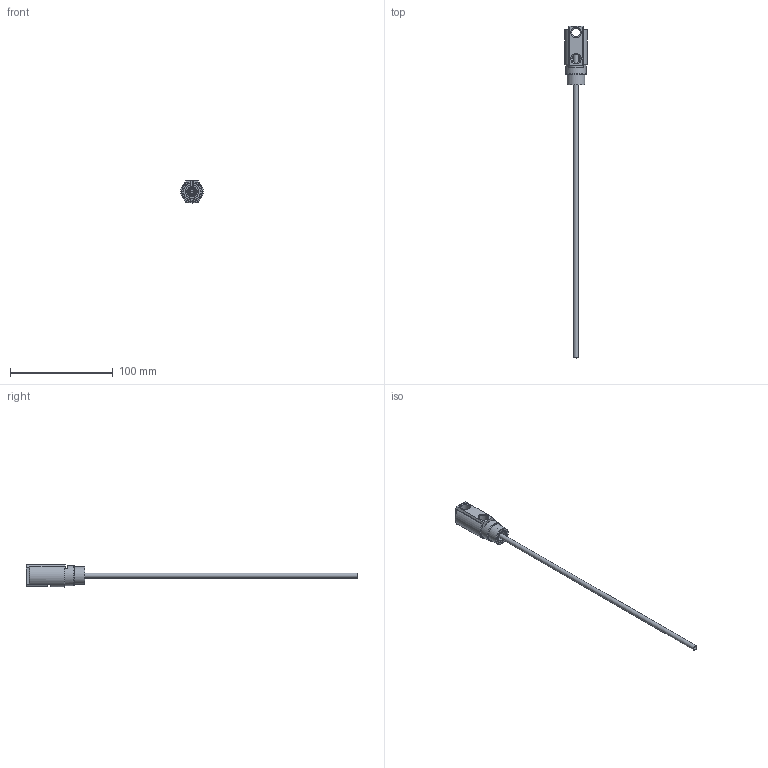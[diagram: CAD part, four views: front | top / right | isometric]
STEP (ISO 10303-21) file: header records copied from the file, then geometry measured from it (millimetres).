
FILE_DESCRIPTION(/* description */ (''),/* implementation_level */ '2;1');
FILE_NAME(/* name */ 'C:/Users/drich/Desktop/SC181N.step',/* time_stamp */ '2020-12-14T10:27:48-06:00',/* author */ (''),/* organization */ (''),/* preprocessor_version */ 'ST-DEVELOPER v18.1',/* originating_system */ 'Autodesk Translation Framework v9.7.1.1290',/* authorisation */ '');
FILE_SCHEMA (('AUTOMOTIVE_DESIGN { 1 0 10303 214 3 1 1 }'));
Length unit declared in the file: inch
Products named in the file (5): SC181N; SC181H HEAD; SC181H Sleeve; seal; HF187T-12
Assembly tree (4 placements, depth 3):
  SC181N
    SC181H HEAD
      SC181H Sleeve
      seal
    HF187T-12
Bounding box: 22.2 x 322.83 x 21.41 mm (x, y, z)
Volume: 15936.5 mm3; surface area: 19308.1 mm2
Topology: 4 solids, 4 shells, 82 faces, 198 edges, 128 vertices
Faces by surface type: plane 37, cylinder 22, cone 14, torus 9
Full cylindrical faces by diameter (mm): 4.242 x1, 4.75 x1, 5.474 x1, 6.243 x1, 6.401 x1, 6.731 x1, 7.214 x1, 8.707 x3, 9.5 x2, 12.7 x1, 12.954 x1, 15.165 x1, 17.018 x1, 19.558 x1
Entity records: 2689 total; most frequent: CARTESIAN_POINT 614, DIRECTION 428, ORIENTED_EDGE 396, EDGE_CURVE 198, AXIS2_PLACEMENT_3D 174, VERTEX_POINT 128, EDGE_LOOP 98, CIRCLE 83
